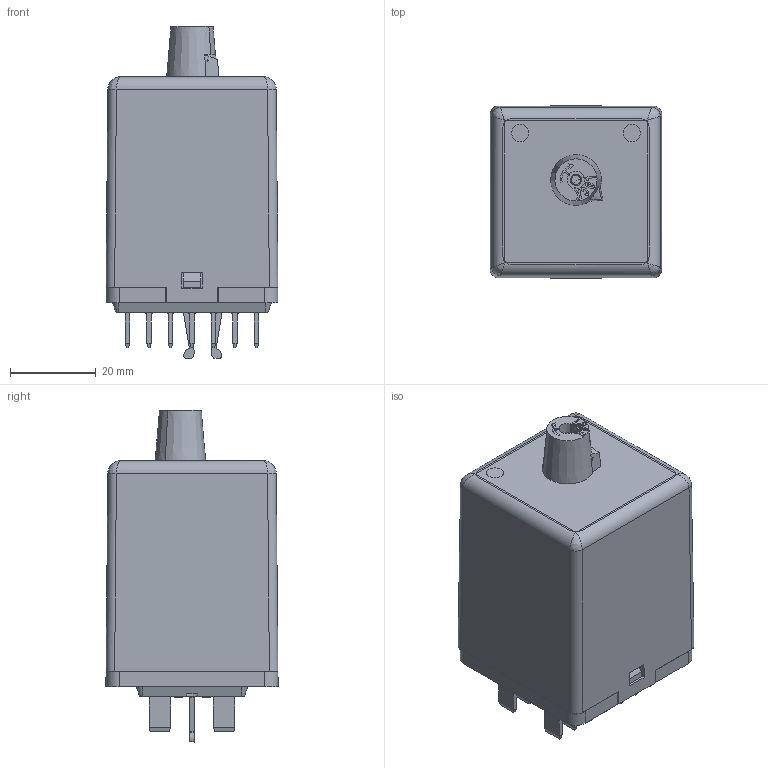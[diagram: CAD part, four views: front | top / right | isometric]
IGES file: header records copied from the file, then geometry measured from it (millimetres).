
Global section: file name: No Iges File Name specified; native system: Autodesk Inventor 2011; preprocessor: AutoDesk Inventor Iges Exporter R2011; author: oey; date: 20110308.075642; units: millimetre
Bounding box: 40 x 40.06 x 77.25 mm (x, y, z)
Volume: 24611.4 mm3; surface area: 29452.9 mm2
Topology: 1 solids, 1 shells, 1609 faces, 4527 edges, 2878 vertices
Faces by surface type: plane 837, bspline 411, cylinder 168, revolution 156, sphere 28, cone 7, torus 2
